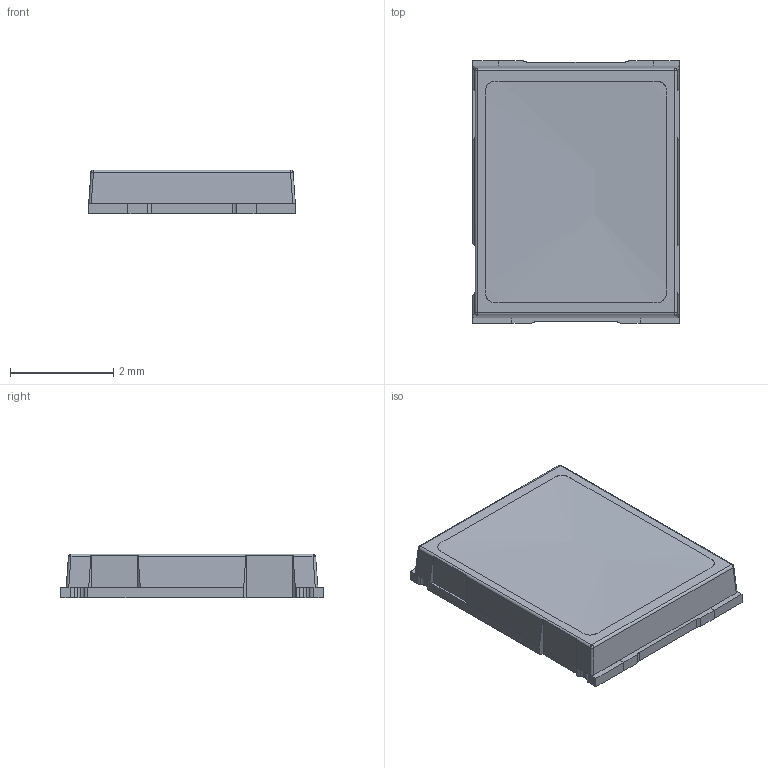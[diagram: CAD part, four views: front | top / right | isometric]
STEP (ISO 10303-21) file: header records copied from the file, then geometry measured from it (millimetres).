
FILE_DESCRIPTION (( 'STEP AP203' ), '1' );
FILE_NAME ('SFH_2200_20170928_geometry.STEP', '2017-09-28T06:15:23', ( '' ), ( '' ), 'SwSTEP 2.0', 'SolidWorks 2015', '' );
FILE_SCHEMA (( 'CONFIG_CONTROL_DESIGN' ));
Length unit declared in the file: millimetre
Products named in the file (1): SFH_2200_20170928_geometry
Bounding box: 4 x 5.09 x 0.85 mm (x, y, z)
Volume: 15.9 mm3; surface area: 54.6 mm2
Topology: 1 solids, 1 shells, 150 faces, 410 edges, 262 vertices
Faces by surface type: plane 91, cylinder 50, bspline 5, sphere 4
Entity records: 5338 total; most frequent: CARTESIAN_POINT 1592, ORIENTED_EDGE 796, DIRECTION 731, EDGE_CURVE 398, LINE 263, VECTOR 263, VERTEX_POINT 254, AXIS2_PLACEMENT_3D 234
